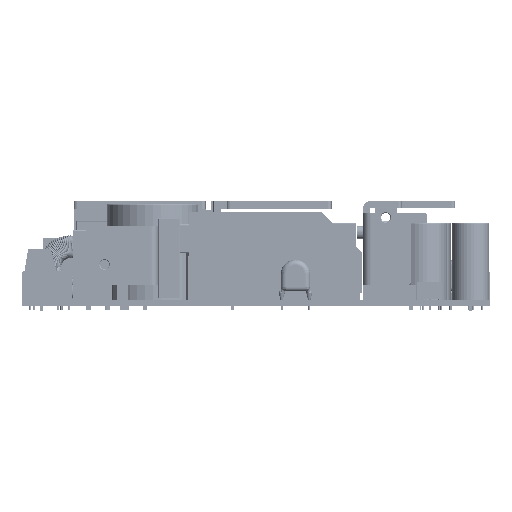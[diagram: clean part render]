
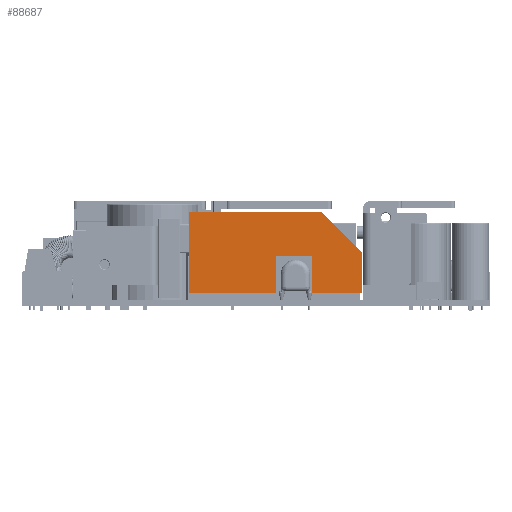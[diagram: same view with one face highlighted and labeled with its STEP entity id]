
A CAD part, front view. The second image highlights one B-rep face of the part: STEP entity #88687.
In plain terms, the highlighted planar face has unit normal (0, -1, 0).
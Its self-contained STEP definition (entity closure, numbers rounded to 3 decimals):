
#6576=PLANE($,#95784);
#8341=FACE_OUTER_BOUND($,#15316,.T.);
#15316=EDGE_LOOP($,(#56815,#56816,#56817,#56818,#56819,#56820,#56821,#56822,
#56823));
#22663=LINE($,#143284,#26293);
#22677=LINE($,#143311,#26307);
#22680=LINE($,#143317,#26310);
#22683=LINE($,#143322,#26313);
#22684=LINE($,#143325,#26314);
#22687=LINE($,#143330,#26317);
#22688=LINE($,#143332,#26318);
#22689=LINE($,#143335,#26319);
#22690=LINE($,#143336,#26320);
#26293=VECTOR($,#110523,15.556);
#26307=VECTOR($,#110541,11.);
#26310=VECTOR($,#110546,9.892);
#26313=VECTOR($,#110551,35.741);
#26314=VECTOR($,#110554,10.);
#26317=VECTOR($,#110559,22.);
#26318=VECTOR($,#110562,23.439);
#26319=VECTOR($,#110565,10.);
#26320=VECTOR($,#110566,13.41);
#36879=VERTEX_POINT($,#143282);
#36880=VERTEX_POINT($,#143283);
#36891=VERTEX_POINT($,#143310);
#36892=VERTEX_POINT($,#143314);
#36893=VERTEX_POINT($,#143316);
#36894=VERTEX_POINT($,#143320);
#36895=VERTEX_POINT($,#143324);
#36896=VERTEX_POINT($,#143328);
#36897=VERTEX_POINT($,#143334);
#43424=EDGE_CURVE($,#36879,#36880,#22663,.T.);
#43438=EDGE_CURVE($,#36891,#36880,#22677,.T.);
#43441=EDGE_CURVE($,#36893,#36892,#22680,.T.);
#43444=EDGE_CURVE($,#36879,#36894,#22683,.T.);
#43445=EDGE_CURVE($,#36895,#36893,#22684,.T.);
#43448=EDGE_CURVE($,#36896,#36894,#22687,.T.);
#43449=EDGE_CURVE($,#36895,#36896,#22688,.T.);
#43450=EDGE_CURVE($,#36897,#36892,#22689,.T.);
#43451=EDGE_CURVE($,#36891,#36897,#22690,.T.);
#56815=ORIENTED_EDGE($,*,*,#43424,.F.);
#56816=ORIENTED_EDGE($,*,*,#43444,.T.);
#56817=ORIENTED_EDGE($,*,*,#43448,.F.);
#56818=ORIENTED_EDGE($,*,*,#43449,.F.);
#56819=ORIENTED_EDGE($,*,*,#43445,.T.);
#56820=ORIENTED_EDGE($,*,*,#43441,.T.);
#56821=ORIENTED_EDGE($,*,*,#43450,.F.);
#56822=ORIENTED_EDGE($,*,*,#43451,.F.);
#56823=ORIENTED_EDGE($,*,*,#43438,.T.);
#88687=ADVANCED_FACE($,(#8341),#6576,.T.);
#95784=AXIS2_PLACEMENT_3D($,#143333,#110563,#110564);
#110523=DIRECTION($,(0.707,0.,-0.707));
#110541=DIRECTION($,(0.,0.,1.));
#110546=DIRECTION($,(1.,0.,0.));
#110551=DIRECTION($,(-1.,0.,0.));
#110554=DIRECTION($,(0.,0.,1.));
#110559=DIRECTION($,(0.,0.,1.));
#110562=DIRECTION($,(-1.,0.,0.));
#110563=DIRECTION('center_axis',(0.,-1.,0.));
#110564=DIRECTION('ref_axis',(0.,0.,-1.));
#110565=DIRECTION($,(0.,0.,1.));
#110566=DIRECTION($,(-1.,0.,0.));
#143282=CARTESIAN_POINT('',(81.176,0.421,25.6));
#143283=CARTESIAN_POINT('',(92.176,0.421,14.6));
#143284=CARTESIAN_POINT($,(92.176,0.421,14.6));
#143310=CARTESIAN_POINT('',(92.176,0.421,3.6));
#143311=CARTESIAN_POINT($,(92.176,0.421,3.6));
#143314=CARTESIAN_POINT('',(78.766,0.421,13.6));
#143316=CARTESIAN_POINT('',(68.874,0.421,13.6));
#143317=CARTESIAN_POINT($,(45.435,0.421,13.6));
#143320=CARTESIAN_POINT('',(45.435,0.421,25.6));
#143322=CARTESIAN_POINT($,(45.435,0.421,25.6));
#143324=CARTESIAN_POINT('',(68.874,0.421,3.6));
#143325=CARTESIAN_POINT($,(68.874,0.421,3.6));
#143328=CARTESIAN_POINT('',(45.435,0.421,3.6));
#143330=CARTESIAN_POINT($,(45.435,0.421,3.6));
#143332=CARTESIAN_POINT($,(68.874,0.421,3.6));
#143333=CARTESIAN_POINT('Origin',(92.176,0.421,3.6));
#143334=CARTESIAN_POINT('',(78.766,0.421,3.6));
#143335=CARTESIAN_POINT($,(78.766,0.421,3.6));
#143336=CARTESIAN_POINT($,(92.176,0.421,3.6));
